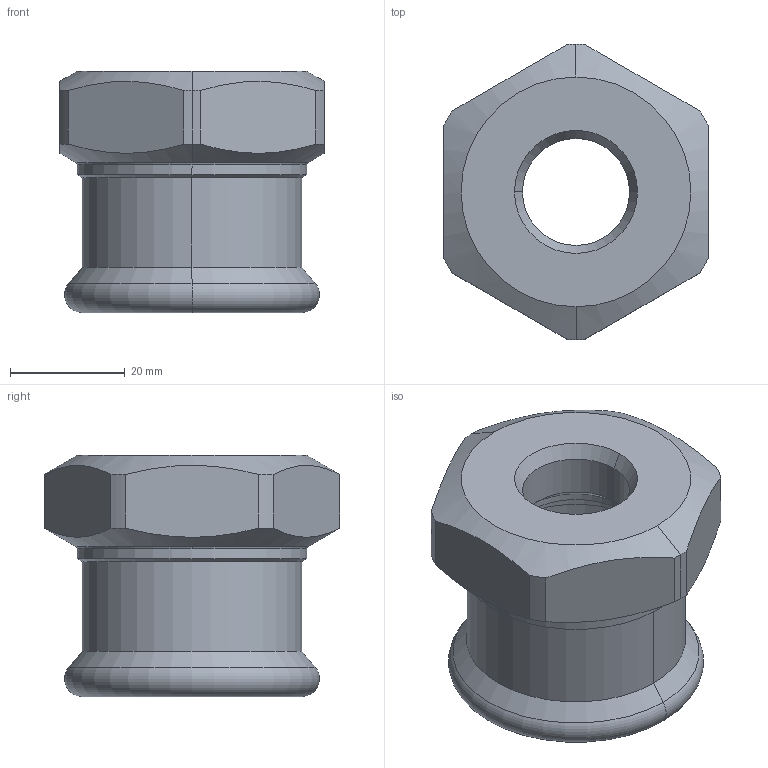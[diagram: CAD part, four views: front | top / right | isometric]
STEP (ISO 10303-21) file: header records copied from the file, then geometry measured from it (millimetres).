
FILE_DESCRIPTION(('CoCreate Modeling STEP Export'),'2;1');
FILE_NAME('C1402 35xRp1-2.stp','2014-11-07T13:59:25',(''),(''),'CoCreate Modeling STEP processor for AP214 (Solid Model)','CoCreate Modeling 17.00A 17-Jun-2010 (C) Parametric Technology GmbH','');
FILE_SCHEMA(('AUTOMOTIVE_DESIGN { 1 0 10303 214 1 1 1 1 }'));
Length unit declared in the file: millimetre
Products named in the file (2): C1402_35xRp1-2
Assembly tree (1 placements, depth 2):
  C1402_35xRp1-2
    C1402_35xRp1-2
Bounding box: 46 x 51.5 x 42 mm (x, y, z)
Volume: 28429.5 mm3; surface area: 12393.9 mm2
Topology: 1 solids, 1 shells, 53 faces, 124 edges, 74 vertices
Faces by surface type: cylinder 22, cone 18, plane 9, torus 4
Entity records: 2272 total; most frequent: CARTESIAN_POINT 1128, ORIENTED_EDGE 248, DIRECTION 202, EDGE_CURVE 124, AXIS2_PLACEMENT_3D 78, VERTEX_POINT 74, EDGE_LOOP 56, FACE_OUTER_BOUND 53
